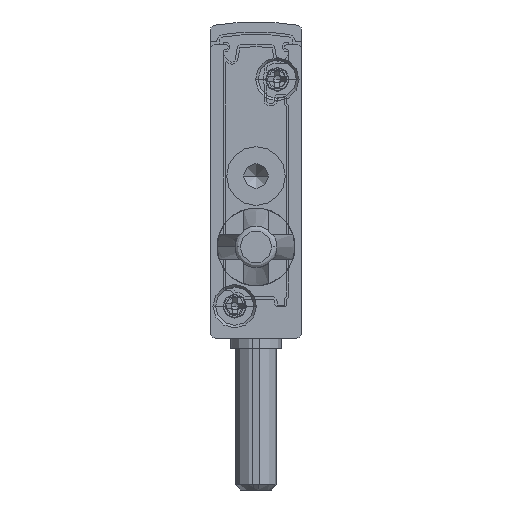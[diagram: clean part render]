
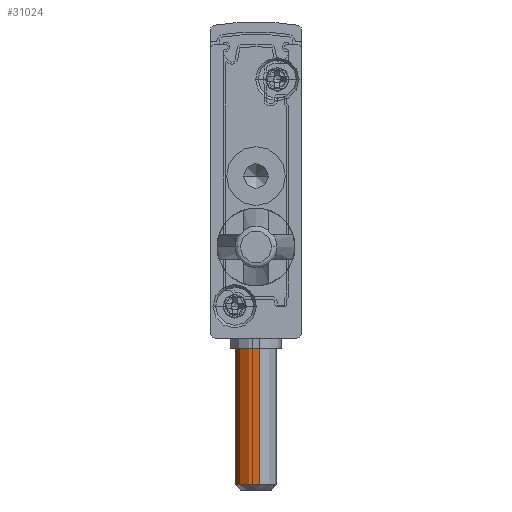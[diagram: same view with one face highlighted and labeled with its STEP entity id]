
A CAD part, front view. The second image highlights one B-rep face of the part: STEP entity #31024.
In plain terms, the highlighted cylindrical face has radius 2 mm (diameter 4 mm), a partial arc.
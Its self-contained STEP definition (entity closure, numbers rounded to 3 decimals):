
#631 = VERTEX_POINT ( 'NONE', #22678 ) ;
#2255 = LINE ( 'NONE', #20366, #13424 ) ;
#2614 = CARTESIAN_POINT ( 'NONE',  ( -4.5, 2692.5, -1. ) ) ;
#3032 = EDGE_LOOP ( 'NONE', ( #26496, #22568, #20021, #9100 ) ) ;
#3380 = AXIS2_PLACEMENT_3D ( 'NONE', #8800, #32632, #4209 ) ;
#3989 = EDGE_CURVE ( 'NONE', #631, #19320, #25109, .T. ) ;
#4209 = DIRECTION ( 'NONE',  ( -0.15, 0.989, 0. ) ) ;
#6028 = CYLINDRICAL_SURFACE ( 'NONE', #3380, 2. ) ;
#6858 = DIRECTION ( 'NONE',  ( 0., 0., 1. ) ) ;
#8357 = CARTESIAN_POINT ( 'NONE',  ( -4.199, 2690.523, -14.5 ) ) ;
#8800 = CARTESIAN_POINT ( 'NONE',  ( -4.5, 2692.5, -15. ) ) ;
#9100 = ORIENTED_EDGE ( 'NONE', *, *, #3989, .F. ) ;
#9435 = CIRCLE ( 'NONE', #17220, 2. ) ;
#9565 = CIRCLE ( 'NONE', #15012, 2. ) ;
#10194 = VECTOR ( 'NONE', #28379, 1000. ) ;
#10693 = DIRECTION ( 'NONE',  ( 0., 0., -1. ) ) ;
#12245 = EDGE_CURVE ( 'NONE', #631, #23715, #9565, .T. ) ;
#13338 = DIRECTION ( 'NONE',  ( 0.15, -0.989, 0. ) ) ;
#13424 = VECTOR ( 'NONE', #6858, 1000. ) ;
#14549 = CARTESIAN_POINT ( 'NONE',  ( -4.801, 2694.477, -1. ) ) ;
#15012 = AXIS2_PLACEMENT_3D ( 'NONE', #29760, #21802, #16622 ) ;
#16622 = DIRECTION ( 'NONE',  ( 0.15, -0.989, 0. ) ) ;
#17220 = AXIS2_PLACEMENT_3D ( 'NONE', #2614, #10693, #13338 ) ;
#19320 = VERTEX_POINT ( 'NONE', #14549 ) ;
#19411 = EDGE_CURVE ( 'NONE', #23901, #19320, #9435, .T. ) ;
#20021 = ORIENTED_EDGE ( 'NONE', *, *, #19411, .T. ) ;
#20204 = EDGE_CURVE ( 'NONE', #23715, #23901, #2255, .T. ) ;
#20366 = CARTESIAN_POINT ( 'NONE',  ( -4.199, 2690.523, -15. ) ) ;
#21802 = DIRECTION ( 'NONE',  ( 0., 0., 1. ) ) ;
#22568 = ORIENTED_EDGE ( 'NONE', *, *, #20204, .T. ) ;
#22678 = CARTESIAN_POINT ( 'NONE',  ( -4.801, 2694.477, -14.5 ) ) ;
#23715 = VERTEX_POINT ( 'NONE', #8357 ) ;
#23901 = VERTEX_POINT ( 'NONE', #27924 ) ;
#25109 = LINE ( 'NONE', #33669, #10194 ) ;
#26496 = ORIENTED_EDGE ( 'NONE', *, *, #12245, .T. ) ;
#26696 = FACE_OUTER_BOUND ( 'NONE', #3032, .T. ) ;
#27924 = CARTESIAN_POINT ( 'NONE',  ( -4.199, 2690.523, -1. ) ) ;
#28379 = DIRECTION ( 'NONE',  ( 0., 0., 1. ) ) ;
#29760 = CARTESIAN_POINT ( 'NONE',  ( -4.5, 2692.5, -14.5 ) ) ;
#31024 = ADVANCED_FACE ( 'NONE', ( #26696 ), #6028, .T. ) ;
#32632 = DIRECTION ( 'NONE',  ( 0., 0., 1. ) ) ;
#33669 = CARTESIAN_POINT ( 'NONE',  ( -4.801, 2694.477, -15. ) ) ;
